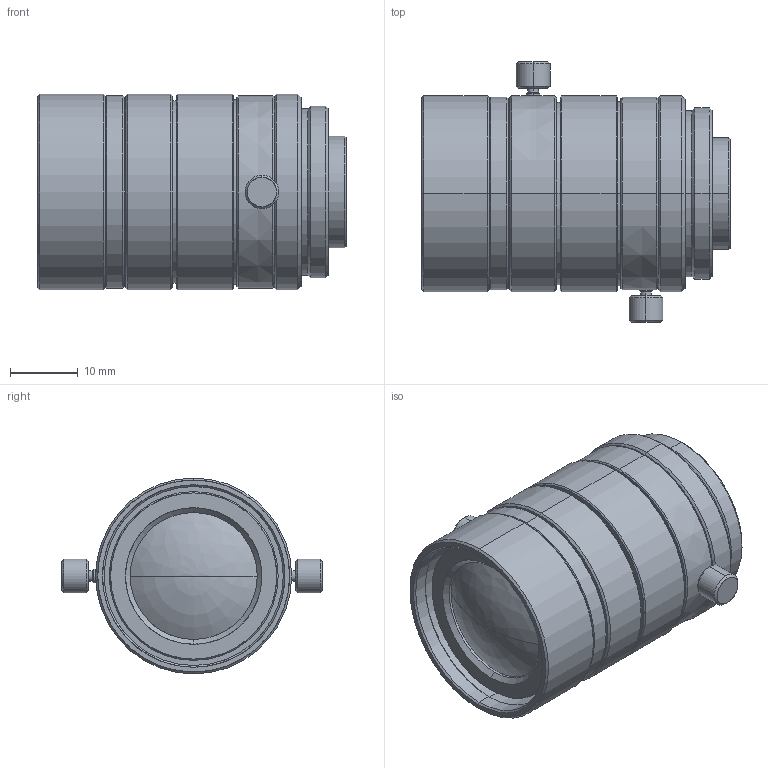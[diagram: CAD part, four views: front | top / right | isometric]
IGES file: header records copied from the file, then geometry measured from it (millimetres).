
Start section: SolidWorks IGES file using analytic representation for surfaces
Bounding box: 45.7 x 38.6 x 29 mm (x, y, z)
Surface area: 7900.1 mm2 (no closed solid volume)
Topology: 0 solids, 0 shells, 151 faces, 2372 edges, 2370 vertices
Faces by surface type: revolution 128, bspline 23
